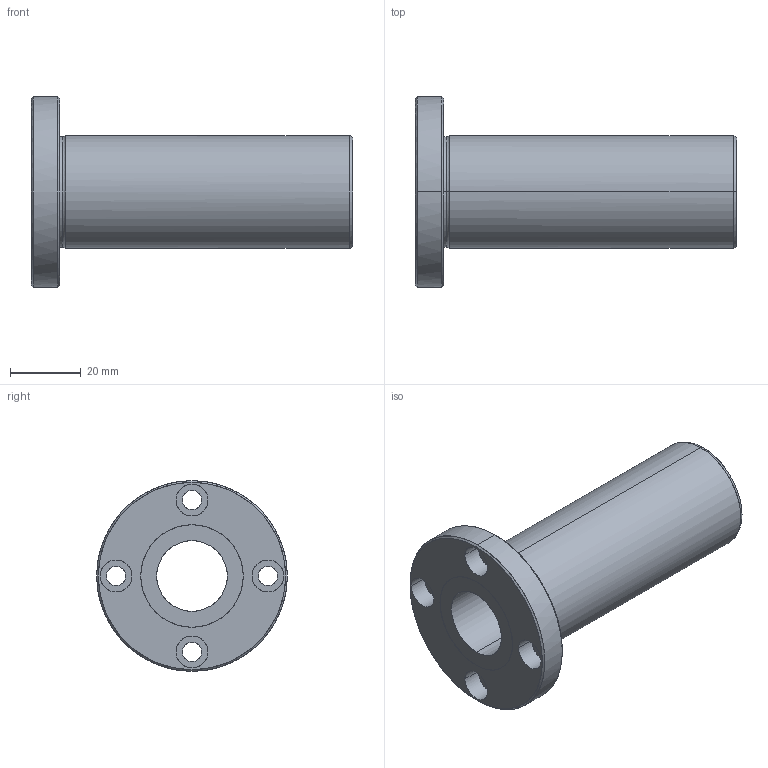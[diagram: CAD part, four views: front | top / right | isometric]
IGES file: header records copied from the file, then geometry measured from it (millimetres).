
Global section: file name: No Iges File Name specified; native system: AutoDesk Inventor R10; preprocessor: AutoDesk Inventor Iges Exporter R10; author: No Author specified; organization: No Organization specified; date: 20101216.153845; units: millimetre
Bounding box: 91 x 54 x 54 mm (x, y, z)
Surface area: 19866.2 mm2 (no closed solid volume)
Topology: 0 solids, 0 shells, 45 faces, 320 edges, 320 vertices
Faces by surface type: bspline 45
